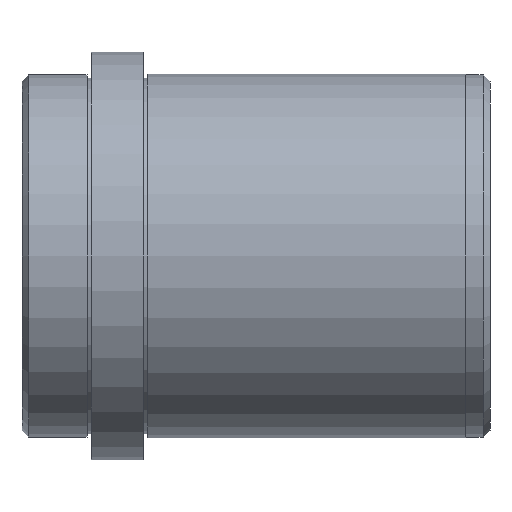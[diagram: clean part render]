
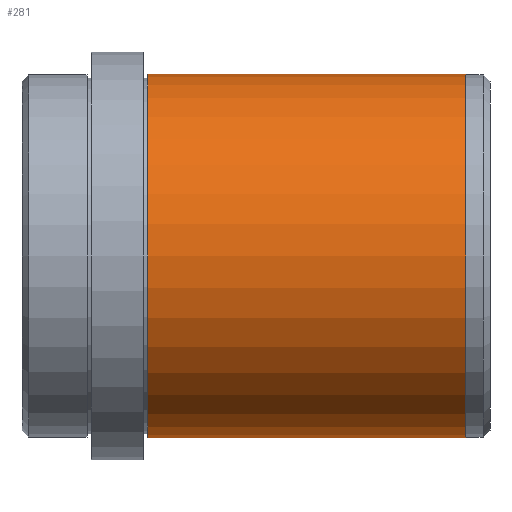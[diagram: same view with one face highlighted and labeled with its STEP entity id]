
A CAD part, front view. The second image highlights one B-rep face of the part: STEP entity #281.
In plain terms, the highlighted cylindrical face has radius 21 mm (diameter 42 mm), a full revolution.
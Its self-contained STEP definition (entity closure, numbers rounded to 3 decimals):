
#20=CYLINDRICAL_SURFACE('',#340,21.);
#50=FACE_OUTER_BOUND('',#73,.T.);
#73=EDGE_LOOP('',(#235,#236,#237,#238));
#88=LINE('',#508,#99);
#99=VECTOR('',#432,21.);
#120=CIRCLE('',#339,21.);
#121=CIRCLE('',#341,21.);
#142=VERTEX_POINT('',#503);
#143=VERTEX_POINT('',#506);
#174=EDGE_CURVE('',#142,#142,#120,.T.);
#175=EDGE_CURVE('',#143,#143,#121,.T.);
#176=EDGE_CURVE('',#143,#142,#88,.T.);
#235=ORIENTED_EDGE('',*,*,#175,.F.);
#236=ORIENTED_EDGE('',*,*,#176,.T.);
#237=ORIENTED_EDGE('',*,*,#174,.T.);
#238=ORIENTED_EDGE('',*,*,#176,.F.);
#281=ADVANCED_FACE('',(#50),#20,.T.);
#339=AXIS2_PLACEMENT_3D('',#504,#426,#427);
#340=AXIS2_PLACEMENT_3D('',#505,#428,#429);
#341=AXIS2_PLACEMENT_3D('',#507,#430,#431);
#426=DIRECTION('center_axis',(1.,0.,0.));
#427=DIRECTION('ref_axis',(0.,0.,-1.));
#428=DIRECTION('center_axis',(1.,0.,0.));
#429=DIRECTION('ref_axis',(0.,1.,0.));
#430=DIRECTION('center_axis',(1.,0.,0.));
#431=DIRECTION('ref_axis',(0.,0.,-1.));
#432=DIRECTION('',(-1.,0.,0.));
#503=CARTESIAN_POINT('',(14.5,-21.,0.));
#504=CARTESIAN_POINT('Origin',(14.5,0.,0.));
#505=CARTESIAN_POINT('Origin',(32.85,0.,0.));
#506=CARTESIAN_POINT('',(51.2,-21.,0.));
#507=CARTESIAN_POINT('Origin',(51.2,0.,0.));
#508=CARTESIAN_POINT('',(32.85,-21.,0.));
